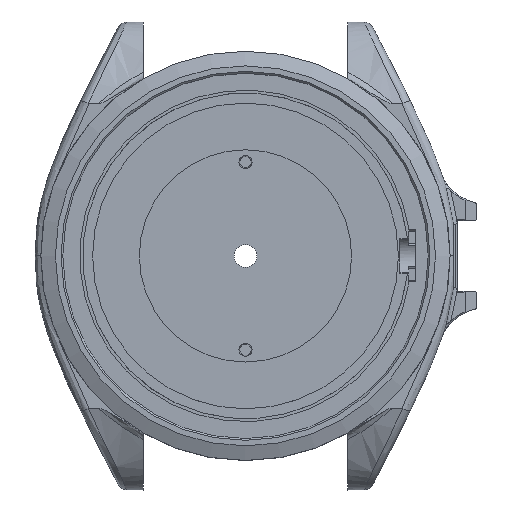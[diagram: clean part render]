
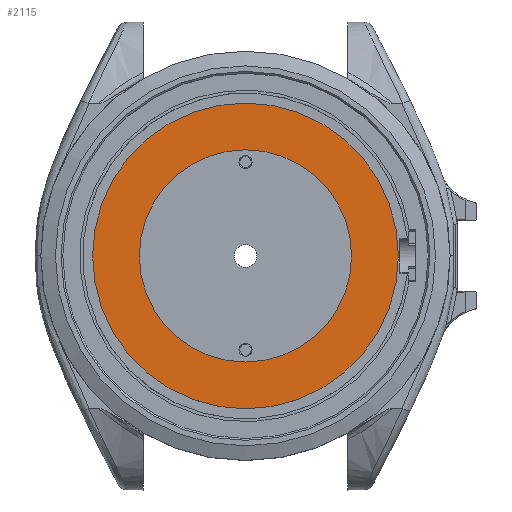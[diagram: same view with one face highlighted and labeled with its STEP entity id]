
A CAD part, top view. The second image highlights one B-rep face of the part: STEP entity #2115.
In plain terms, the highlighted planar face has unit normal (0, 0, 1).
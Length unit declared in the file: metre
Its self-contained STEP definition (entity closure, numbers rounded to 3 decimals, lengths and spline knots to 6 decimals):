
#511=ORIENTED_EDGE('',*,*,#1133,.F.);
#512=ORIENTED_EDGE('',*,*,#1134,.F.);
#1133=EDGE_CURVE('',#1442,#1442,#1632,.T.);
#1134=EDGE_CURVE('',#1443,#1443,#1633,.F.);
#1442=VERTEX_POINT('',#3300);
#1443=VERTEX_POINT('',#3302);
#1632=CIRCLE('',#2268,0.0363);
#1633=CIRCLE('',#2269,0.0523);
#1702=EDGE_LOOP('',(#511));
#1703=EDGE_LOOP('',(#512));
#1876=FACE_BOUND('',#1702,.T.);
#1877=FACE_BOUND('',#1703,.T.);
#2043=PLANE('',#2267);
#2115=ADVANCED_FACE('',(#1876,#1877),#2043,.T.);
#2267=AXIS2_PLACEMENT_3D('',#3298,#2493,#2494);
#2268=AXIS2_PLACEMENT_3D('',#3299,#2495,#2496);
#2269=AXIS2_PLACEMENT_3D('',#3301,#2497,#2498);
#2493=DIRECTION('',(0.,0.,1.));
#2494=DIRECTION('',(1.,0.,0.));
#2495=DIRECTION('',(0.,0.,1.));
#2496=DIRECTION('',(1.,0.,0.));
#2497=DIRECTION('',(0.,0.,1.));
#2498=DIRECTION('',(1.,0.,0.));
#3298=CARTESIAN_POINT('',(0.,0.,0.0188));
#3299=CARTESIAN_POINT('',(0.,0.,0.0188));
#3300=CARTESIAN_POINT('',(0.0363,0.,0.0188));
#3301=CARTESIAN_POINT('',(0.,0.,0.0188));
#3302=CARTESIAN_POINT('',(0.0523,0.,0.0188));
